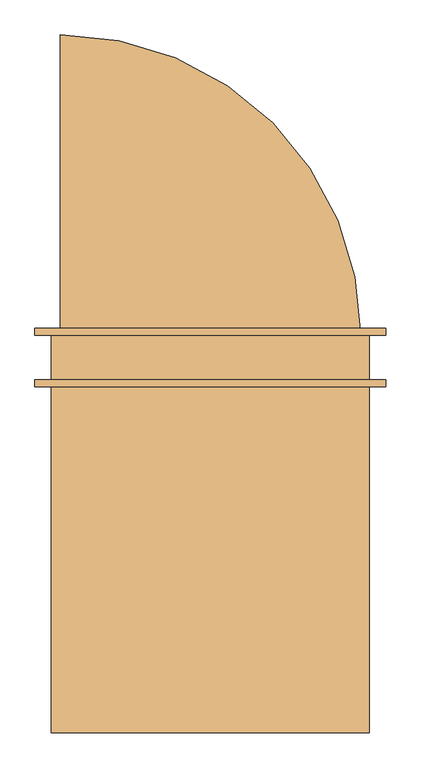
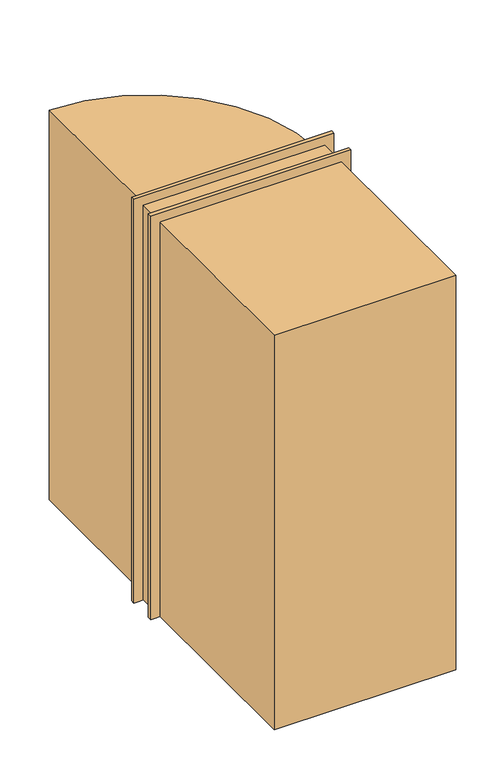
"""IFC4 building model written with IfcOpenShell, lengths in millimetres: door geometry, Дверь_Деревянная_Внутренняя_Однопольная_ГОСТ_475-2016 : 1010 х 2070(h)_Пр_с Порогом 2."""

from ifc_helpers import new_model, si_unit, point, frame, frame_2d, origin, origin_with_axes, place, context, project, spatial, polyline, circle_curve, trimmed, segment, composite_curve, outline, extrude, faceted_brep, source, transform, mapped, element, save
from ifc_brep_helpers import plane_surface, cylinder_surface, revolved_surface, advanced_brep


def door_7bd7211d(model_context):
    return source(origin(), model_context, "Body", "SolidModel", [
        extrude(outline(composite_curve([segment(trimmed(circle_curve(frame_2d((-425.0, 59.325)), 850.0), [point((-425.0, 909.325))], [point((425.0, 59.325))], False, "CARTESIAN"), True, "CONTINUOUS"), segment(polyline([(425.0, 59.325), (-425.0, 59.325), (-425.0, 909.325)]), True, "CONTINUOUS")], self_intersect=False)), origin_with_axes(), (0.0, 0.0, 1.0), 2045.0),
        extrude(outline(polyline([(-450.0, -1065.675), (-450.0, -65.675), (450.0, -65.675), (450.0, -1065.675), (-450.0, -1065.675)])), origin_with_axes(), (0.0, 0.0, 1.0), 2070.0),
        advanced_brep(
        [(360.0, 18.325, 914.4), (370.0, 18.325, 914.4), (350.0, 18.325, 914.4), (339.5241324, -30.675, 914.4), (380.4758676, -30.675, 914.4), (360.0, -30.675, 914.4), (335.0, -28.8471319, 914.4), (385.0, -28.8471319, 914.4), (335.0, -25.3834537, 914.4), (385.0, -25.3834537, 914.4), (341.363764, -0.675, 914.4), (378.636236, -0.675, 914.4), (350.0, -0.675, 914.4), (370.0, -0.675, 914.4)],
        [
            (0, 1),
            (1, 2, circle_curve(frame((360.0, 18.325, 914.4), z_axis=(0.0, 1.0, 0.0), x_axis=(1.0, 0.0, 0.0)), 10.0)),
            (2, 0),
            (2, 1, circle_curve(frame((360.0, 18.325, 914.4), z_axis=(0.0, 1.0, 0.0), x_axis=(1.0, 0.0, 0.0)), 10.0)),
            (3, 4, circle_curve(frame((360.0, -30.675, 914.4), z_axis=(0.0, -1.0, 0.0), x_axis=(1.0, 0.0, 0.0)), 20.4758676)),
            (4, 5),
            (5, 3),
            (4, 3, circle_curve(frame((360.0, -30.675, 914.4), z_axis=(0.0, -1.0, 0.0), x_axis=(1.0, 0.0, 0.0)), 20.4758676)),
            (6, 7, circle_curve(frame((360.0, -28.8471319, 914.4), z_axis=(0.0, -1.0, 0.0), x_axis=(1.0, 0.0, 0.0)), 25.0)),
            (7, 4),
            (3, 6),
            (7, 6, circle_curve(frame((360.0, -28.8471319, 914.4), z_axis=(0.0, -1.0, 0.0), x_axis=(1.0, 0.0, 0.0)), 25.0)),
            (8, 9, circle_curve(frame((360.0, -25.3834537, 914.4), z_axis=(0.0, -1.0, 0.0), x_axis=(1.0, 0.0, 0.0)), 25.0)),
            (9, 7),
            (6, 8),
            (9, 8, circle_curve(frame((360.0, -25.3834537, 914.4), z_axis=(0.0, -1.0, 0.0), x_axis=(1.0, 0.0, 0.0)), 25.0)),
            (10, 11, circle_curve(frame((360.0, -0.675, 914.4), z_axis=(0.0, -1.0, 0.0), x_axis=(1.0, 0.0, 0.0)), 18.636236)),
            (11, 9),
            (8, 10),
            (11, 10, circle_curve(frame((360.0, -0.675, 914.4), z_axis=(0.0, -1.0, 0.0), x_axis=(1.0, 0.0, 0.0)), 18.636236)),
            (12, 13, circle_curve(frame((360.0, -0.675, 914.4), z_axis=(0.0, -1.0, 0.0), x_axis=(1.0, 0.0, 0.0)), 10.0)),
            (13, 11),
            (10, 12),
            (13, 12, circle_curve(frame((360.0, -0.675, 914.4), z_axis=(0.0, -1.0, 0.0), x_axis=(1.0, 0.0, 0.0)), 10.0)),
            (1, 13),
            (12, 2),
        ],
        [
            plane_surface(frame((360.0, 18.325, 914.4), z_axis=(0.0, 1.0, 0.0), x_axis=(1.0, 0.0, 0.0))),
            plane_surface(frame((360.0, -30.675, 914.4), z_axis=(0.0, -1.0, 0.0), x_axis=(1.0, 0.0, 0.0))),
            revolved_surface(polyline([(380.4758676, -30.675, 914.4), (385.0, -28.8471319, 914.4)]), (360.0, 18.325, 914.4), (0.0, 1.0, 0.0)),
            cylinder_surface(frame((360.0, 18.325, 914.4), z_axis=(0.0, 1.0, 0.0), x_axis=(1.0, 0.0, 0.0)), 25.0),
            revolved_surface(polyline([(385.0, -25.3834537, 914.4), (378.636236, -0.675, 914.4)]), (360.0, 18.325, 914.4), (0.0, 1.0, 0.0)),
            plane_surface(frame((360.0, -0.675, 914.4), z_axis=(0.0, 1.0, 0.0), x_axis=(1.0, 0.0, 0.0))),
            cylinder_surface(frame((360.0, 18.325, 914.4), z_axis=(0.0, 1.0, 0.0), x_axis=(1.0, 0.0, 0.0)), 10.0),
        ],
        [
            (0, [[1, 2, 3]]),
            (0, [[-3, 4, -1]]),
            (1, [[5, 6, 7]]),
            (1, [[8, -7, -6]]),
            (2, [[9, 10, -5, 11]]),
            (2, [[12, -11, -8, -10]]),
            (3, [[13, 14, -9, 15]]),
            (3, [[16, -15, -12, -14]]),
            (4, [[17, 18, -13, 19]]),
            (4, [[20, -19, -16, -18]]),
            (5, [[21, 22, -17, 23]]),
            (5, [[24, -23, -20, -22]]),
            (6, [[-2, 25, -21, 26]]),
            (6, [[-4, -26, -24, -25]]),
        ],
    ),
        extrude(outline(composite_curve([segment(trimmed(circle_curve(frame_2d((914.4, 360.0)), 30.0), [point((914.4, 390.0))], [point((914.4, 330.0))], False, "CARTESIAN"), True, "CONTINUOUS"), segment(trimmed(circle_curve(frame_2d((914.4, 360.0)), 30.0), [point((914.4, 330.0))], [point((914.4, 390.0))], False, "CARTESIAN"), True, "CONTINUOUS")], self_intersect=False)), frame((0.0, 18.325, 0.0), z_axis=(0.0, 1.0, 0.0), x_axis=(0.0, 0.0, 1.0)), (0.0, 0.0, 1.0), 6.0),
        advanced_brep(
        [(360.0, 65.325, 914.4), (350.0, 65.325, 914.4), (370.0, 65.325, 914.4), (339.5241324, 114.325, 914.4), (360.0, 114.325, 914.4), (380.4758676, 114.325, 914.4), (335.0, 112.4971319, 914.4), (385.0, 112.4971319, 914.4), (335.0, 109.0334537, 914.4), (385.0, 109.0334537, 914.4), (341.363764, 84.325, 914.4), (378.636236, 84.325, 914.4), (350.0, 84.325, 914.4), (370.0, 84.325, 914.4)],
        [
            (0, 1),
            (1, 2, circle_curve(frame((360.0, 65.325, 914.4), z_axis=(0.0, -1.0, 0.0), x_axis=(1.0, 0.0, 0.0)), 10.0)),
            (2, 0),
            (2, 1, circle_curve(frame((360.0, 65.325, 914.4), z_axis=(0.0, -1.0, 0.0), x_axis=(1.0, 0.0, 0.0)), 10.0)),
            (3, 4),
            (4, 5),
            (5, 3, circle_curve(frame((360.0, 114.325, 914.4), z_axis=(0.0, 1.0, 0.0), x_axis=(1.0, 0.0, 0.0)), 20.4758676)),
            (3, 5, circle_curve(frame((360.0, 114.325, 914.4), z_axis=(0.0, 1.0, 0.0), x_axis=(1.0, 0.0, 0.0)), 20.4758676)),
            (6, 3),
            (5, 7),
            (7, 6, circle_curve(frame((360.0, 112.4971319, 914.4), z_axis=(0.0, 1.0, 0.0), x_axis=(1.0, 0.0, 0.0)), 25.0)),
            (6, 7, circle_curve(frame((360.0, 112.4971319, 914.4), z_axis=(0.0, 1.0, 0.0), x_axis=(1.0, 0.0, 0.0)), 25.0)),
            (8, 6),
            (7, 9),
            (9, 8, circle_curve(frame((360.0, 109.0334537, 914.4), z_axis=(0.0, 1.0, 0.0), x_axis=(1.0, 0.0, 0.0)), 25.0)),
            (8, 9, circle_curve(frame((360.0, 109.0334537, 914.4), z_axis=(0.0, 1.0, 0.0), x_axis=(1.0, 0.0, 0.0)), 25.0)),
            (10, 8),
            (9, 11),
            (11, 10, circle_curve(frame((360.0, 84.325, 914.4), z_axis=(0.0, 1.0, 0.0), x_axis=(1.0, 0.0, 0.0)), 18.636236)),
            (10, 11, circle_curve(frame((360.0, 84.325, 914.4), z_axis=(0.0, 1.0, 0.0), x_axis=(1.0, 0.0, 0.0)), 18.636236)),
            (12, 10),
            (11, 13),
            (13, 12, circle_curve(frame((360.0, 84.325, 914.4), z_axis=(0.0, 1.0, 0.0), x_axis=(1.0, 0.0, 0.0)), 10.0)),
            (12, 13, circle_curve(frame((360.0, 84.325, 914.4), z_axis=(0.0, 1.0, 0.0), x_axis=(1.0, 0.0, 0.0)), 10.0)),
            (1, 12),
            (13, 2),
        ],
        [
            plane_surface(frame((360.0, 65.325, 914.4), z_axis=(0.0, -1.0, 0.0), x_axis=(1.0, 0.0, 0.0))),
            plane_surface(frame((360.0, 114.325, 914.4), z_axis=(0.0, 1.0, 0.0), x_axis=(1.0, 0.0, 0.0))),
            revolved_surface(polyline([(380.4758676, 114.325, 914.4), (385.0, 112.4971319, 914.4)]), (360.0, 65.325, 914.4), (0.0, -1.0, 0.0)),
            cylinder_surface(frame((360.0, 65.325, 914.4), z_axis=(0.0, -1.0, 0.0), x_axis=(1.0, 0.0, 0.0)), 25.0),
            revolved_surface(polyline([(385.0, 109.0334537, 914.4), (378.636236, 84.325, 914.4)]), (360.0, 65.325, 914.4), (0.0, -1.0, 0.0)),
            plane_surface(frame((360.0, 84.325, 914.4), z_axis=(0.0, -1.0, 0.0), x_axis=(1.0, 0.0, 0.0))),
            cylinder_surface(frame((360.0, 65.325, 914.4), z_axis=(0.0, -1.0, 0.0), x_axis=(1.0, 0.0, 0.0)), 10.0),
        ],
        [
            (0, [[1, 2, 3]]),
            (0, [[-3, 4, -1]]),
            (1, [[5, 6, 7]]),
            (1, [[-6, -5, 8]]),
            (2, [[9, -7, 10, 11]]),
            (2, [[-10, -8, -9, 12]]),
            (3, [[13, -11, 14, 15]]),
            (3, [[-14, -12, -13, 16]]),
            (4, [[17, -15, 18, 19]]),
            (4, [[-18, -16, -17, 20]]),
            (5, [[21, -19, 22, 23]]),
            (5, [[-22, -20, -21, 24]]),
            (6, [[25, -23, 26, -2]]),
            (6, [[-26, -24, -25, -4]]),
        ],
    ),
        extrude(outline(composite_curve([segment(trimmed(circle_curve(frame_2d((914.4, 360.0)), 30.0), [point((914.4, 390.0))], [point((914.4, 330.0))], False, "CARTESIAN"), True, "CONTINUOUS"), segment(trimmed(circle_curve(frame_2d((914.4, 360.0)), 30.0), [point((914.4, 330.0))], [point((914.4, 390.0))], False, "CARTESIAN"), True, "CONTINUOUS")], self_intersect=False)), frame((0.0, 59.325, 0.0), z_axis=(0.0, 1.0, 0.0), x_axis=(0.0, 0.0, 1.0)), (0.0, 0.0, 1.0), 6.0),
        extrude(outline(polyline([(305.0, 35.9916667), (-305.0, 35.9916667), (-305.0, 47.6583333), (305.0, 47.6583333), (305.0, 35.9916667)])), frame((0.0, 0.0, 230.0), z_axis=(0.0, 0.0, 1.0), x_axis=(1.0, 0.0, 0.0)), (0.0, 0.0, 1.0), 1695.0),
        extrude(outline(polyline([(2045.0, -425.0), (25.0, -425.0), (25.0, 425.0), (2045.0, 425.0), (2045.0, -425.0)]), holes=[polyline([(1925.0, -305.0), (1925.0, 305.0), (230.0, 305.0), (230.0, -305.0), (1925.0, -305.0)])]), frame((0.0, 24.325, 0.0), z_axis=(0.0, 1.0, 0.0), x_axis=(0.0, 0.0, 1.0)), (0.0, 0.0, 1.0), 35.0),
        faceted_brep([(450.0, 59.325, 0.0), (450.0, -65.675, 0.0), (425.0, -65.675, 0.0), (425.0, -10.6, 0.0), (412.3, -10.6, 0.0), (412.3, 24.325, 0.0), (425.0, 24.325, 0.0), (425.0, 59.325, 0.0), (450.0, 59.325, 2070.0), (450.0, -65.675, 2070.0), (-450.0, -65.675, 2070.0), (-450.0, -65.675, 0.0), (-425.0, -65.675, 0.0), (-425.0, -65.675, 2045.0), (425.0, -65.675, 2045.0), (425.0, -10.6, 2045.0), (-425.0, -10.6, 2045.0), (-425.0, -10.6, 0.0), (-412.3, -10.6, 0.0), (-412.3, -10.6, 2032.3), (412.3, -10.6, 2032.3), (412.3, 24.325, 2032.3), (-412.3, 24.325, 2032.3), (-412.3, 24.325, 0.0), (-425.0, 24.325, 0.0), (-425.0, 24.325, 2045.0), (425.0, 24.325, 2045.0), (425.0, 59.325, 2045.0), (-425.0, 59.325, 2045.0), (-425.0, 59.325, 0.0), (-450.0, 59.325, 0.0), (-450.0, 59.325, 2070.0)], [[[0, 1, 2, 3, 4, 5, 6, 7]], [[1, 0, 8, 9]], [[2, 1, 9, 10, 11, 12, 13, 14]], [[3, 2, 14, 15]], [[4, 3, 15, 16, 17, 18, 19, 20]], [[5, 4, 20, 21]], [[6, 5, 21, 22, 23, 24, 25, 26]], [[7, 6, 26, 27]], [[0, 7, 27, 28, 29, 30, 31, 8]], [[9, 8, 31, 10]], [[15, 14, 13, 16]], [[21, 20, 19, 22]], [[27, 26, 25, 28]], [[30, 29, 24, 23, 18, 17, 12, 11]], [[10, 31, 30, 11]], [[16, 13, 12, 17]], [[22, 19, 18, 23]], [[28, 25, 24, 29]]]),
        extrude(outline(polyline([(0.0, 431.35), (0.0, 496.35), (2116.35, 496.35), (2116.35, -496.35), (0.0, -496.35), (0.0, -431.35), (2051.35, -431.35), (2051.35, 431.35), (0.0, 431.35)])), frame((0.0, -85.675, 0.0), z_axis=(0.0, 1.0, 0.0), x_axis=(0.0, 0.0, 1.0)), (0.0, 0.0, 1.0), 20.0),
        extrude(outline(polyline([(0.0, 431.35), (0.0, 496.35), (2116.35, 496.35), (2116.35, -496.35), (0.0, -496.35), (0.0, -431.35), (2051.35, -431.35), (2051.35, 431.35), (0.0, 431.35)])), frame((0.0, 59.325, 0.0), z_axis=(0.0, 1.0, 0.0), x_axis=(0.0, 0.0, 1.0)), (0.0, 0.0, 1.0), 20.0),
        extrude(outline(polyline([(425.0, 59.325), (425.0, 24.325), (-425.0, 24.325), (-425.0, 59.325), (425.0, 59.325)])), origin_with_axes(), (0.0, 0.0, 1.0), 25.0),
    ])


if __name__ == "__main__":
    model = new_model("IFC4")
    model_context = context("Model", 3, world=origin())
    ifc_project = project(units=[si_unit("LENGTHUNIT", "METRE", prefix="MILLI")], contexts=[model_context])
    site = spatial("IfcSite", under=ifc_project)
    building = spatial("IfcBuilding", under=site)
    placement = place(None, origin())
    door_shape = door_7bd7211d(model_context)
    element("IfcDoor", 1, ObjectType="Дверь_Деревянная_Внутренняя_Однопольная_ГОСТ_475-2016 : 1010 х 2070(h)_Пр_с Порогом 2", at=placement, inside=building, context=model_context, shape_type="MappedRepresentation", body=[
        mapped(door_shape, transform((0.0, 0.0, 0.0), x_axis=(1.0, 0.0, 0.0), y_axis=(0.0, 1.0, 0.0), z_axis=(0.0, 0.0, 1.0))),
    ])
    save(model, "model.ifc")
